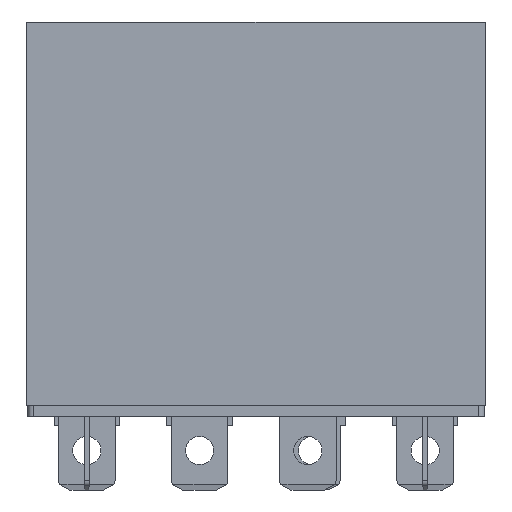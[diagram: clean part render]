
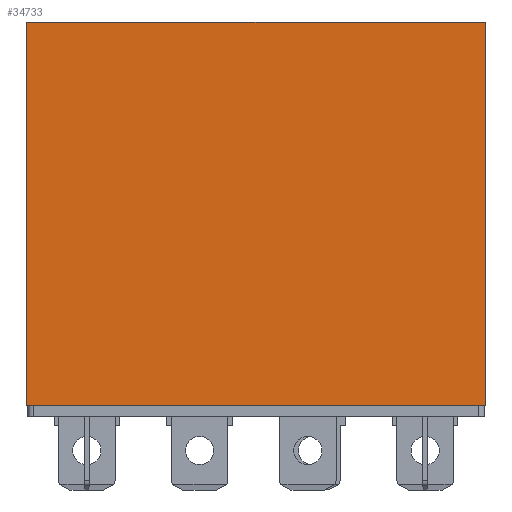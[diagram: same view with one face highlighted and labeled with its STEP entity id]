
A CAD part, front view. The second image highlights one B-rep face of the part: STEP entity #34733.
In plain terms, the highlighted planar face has unit normal (0, -1, 0) as drawn and (0, 0, -1) by its records, which use the part's own axes.
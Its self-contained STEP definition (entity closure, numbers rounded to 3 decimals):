
#148 = CARTESIAN_POINT ( 'NONE',  ( 20.35, 34., -13.5 ) ) ;
#671 = VERTEX_POINT ( 'NONE', #16075 ) ;
#2429 = LINE ( 'NONE', #22721, #31890 ) ;
#2675 = VECTOR ( 'NONE', #14382, 1000. ) ;
#2710 = PLANE ( 'NONE',  #22494 ) ;
#5020 = DIRECTION ( 'NONE',  ( -1., 0., 0. ) ) ;
#7946 = EDGE_LOOP ( 'NONE', ( #32455, #24172, #15890, #27040 ) ) ;
#8449 = DIRECTION ( 'NONE',  ( 0., -1., 0. ) ) ;
#10908 = DIRECTION ( 'NONE',  ( -1., 0., 0. ) ) ;
#11397 = VECTOR ( 'NONE', #10908, 1000. ) ;
#13281 = VECTOR ( 'NONE', #5020, 1000. ) ;
#13666 = CARTESIAN_POINT ( 'NONE',  ( -20.35, 34., -13.5 ) ) ;
#13962 = CARTESIAN_POINT ( 'NONE',  ( 20.35, 34., -13.5 ) ) ;
#14205 = DIRECTION ( 'NONE',  ( 0., 0., 1. ) ) ;
#14382 = DIRECTION ( 'NONE',  ( 0., -1., 0. ) ) ;
#15890 = ORIENTED_EDGE ( 'NONE', *, *, #30084, .F. ) ;
#16075 = CARTESIAN_POINT ( 'NONE',  ( 20.35, 0., -13.5 ) ) ;
#17526 = FACE_OUTER_BOUND ( 'NONE', #7946, .T. ) ;
#17776 = VERTEX_POINT ( 'NONE', #20660 ) ;
#17872 = LINE ( 'NONE', #148, #2675 ) ;
#19202 = EDGE_CURVE ( 'NONE', #34069, #671, #17872, .T. ) ;
#20660 = CARTESIAN_POINT ( 'NONE',  ( -20.35, 0., -13.5 ) ) ;
#22494 = AXIS2_PLACEMENT_3D ( 'NONE', #22725, #14205, #34163 ) ;
#22721 = CARTESIAN_POINT ( 'NONE',  ( -20.35, 34., -13.5 ) ) ;
#22725 = CARTESIAN_POINT ( 'NONE',  ( -20.35, 34., -13.5 ) ) ;
#23369 = EDGE_CURVE ( 'NONE', #671, #17776, #26603, .T. ) ;
#24172 = ORIENTED_EDGE ( 'NONE', *, *, #32175, .F. ) ;
#24888 = CARTESIAN_POINT ( 'NONE',  ( -20.35, 34., -13.5 ) ) ;
#26603 = LINE ( 'NONE', #30876, #11397 ) ;
#26863 = VERTEX_POINT ( 'NONE', #13666 ) ;
#27040 = ORIENTED_EDGE ( 'NONE', *, *, #19202, .T. ) ;
#30084 = EDGE_CURVE ( 'NONE', #34069, #26863, #36034, .T. ) ;
#30876 = CARTESIAN_POINT ( 'NONE',  ( -20.35, 0., -13.5 ) ) ;
#31890 = VECTOR ( 'NONE', #8449, 1000. ) ;
#32175 = EDGE_CURVE ( 'NONE', #26863, #17776, #2429, .T. ) ;
#32455 = ORIENTED_EDGE ( 'NONE', *, *, #23369, .T. ) ;
#34069 = VERTEX_POINT ( 'NONE', #13962 ) ;
#34163 = DIRECTION ( 'NONE',  ( 1., 0., 0. ) ) ;
#34733 = ADVANCED_FACE ( 'NONE', ( #17526 ), #2710, .F. ) ;
#36034 = LINE ( 'NONE', #24888, #13281 ) ;
